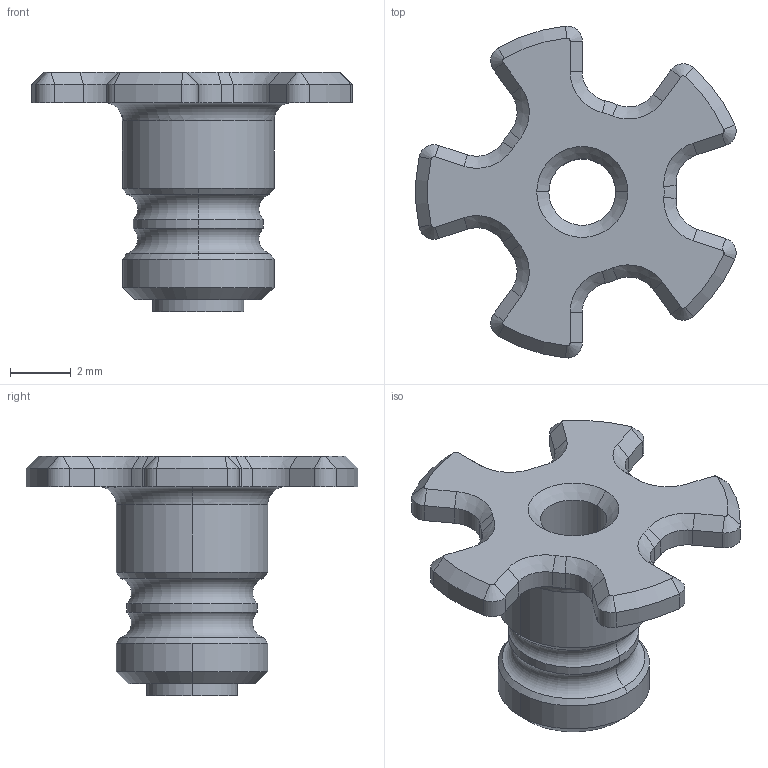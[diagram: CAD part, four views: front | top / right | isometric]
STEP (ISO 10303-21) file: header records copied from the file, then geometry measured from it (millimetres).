
FILE_DESCRIPTION((''),'2;1');
FILE_NAME('0001','2025-04-09T12:18:18',('Administrator'),(''),'CREO PARAMETRIC BY PTC INC, 2024063','CREO PARAMETRIC BY PTC INC, 2024063','');
FILE_SCHEMA(('CONFIG_CONTROL_DESIGN'));
Length unit declared in the file: millimetre
Products named in the file (1): 0001
Bounding box: 10.56 x 10.95 x 7.9 mm (x, y, z)
Volume: 147.6 mm3; surface area: 306.8 mm2
Topology: 1 solids, 1 shells, 112 faces, 265 edges, 156 vertices
Faces by surface type: cylinder 40, cone 38, plane 28, torus 6
Entity records: 3252 total; most frequent: DIRECTION 626, CARTESIAN_POINT 533, ORIENTED_EDGE 530, EDGE_CURVE 265, AXIS2_PLACEMENT_3D 249, VERTEX_POINT 156, CIRCLE 137, VECTOR 128
